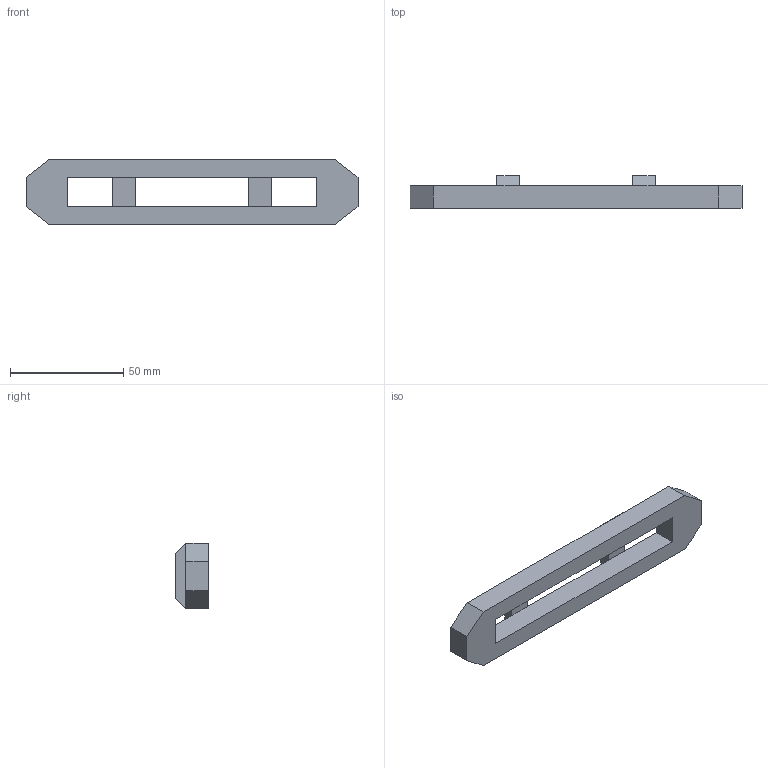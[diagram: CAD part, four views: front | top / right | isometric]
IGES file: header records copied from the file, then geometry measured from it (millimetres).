
Start section: SolidWorks IGES file using analytic representation for surfaces
Global section: file name: C:\Documents and Settings\Pc\Escritorio\Modelos 3D\Capítulo 4 (Caída)\PRACTICAS\P-11\practica 2-2.IGS; native system: SolidWorks 2010; preprocessor: SolidWorks 2010; author: Pc; date: 100623.113945; units: millimetre
Bounding box: 146.71 x 14.5 x 29 mm (x, y, z)
Surface area: 12116.9 mm2 (no closed solid volume)
Topology: 0 solids, 0 shells, 29 faces, 160 edges, 160 vertices
Faces by surface type: bspline 29
